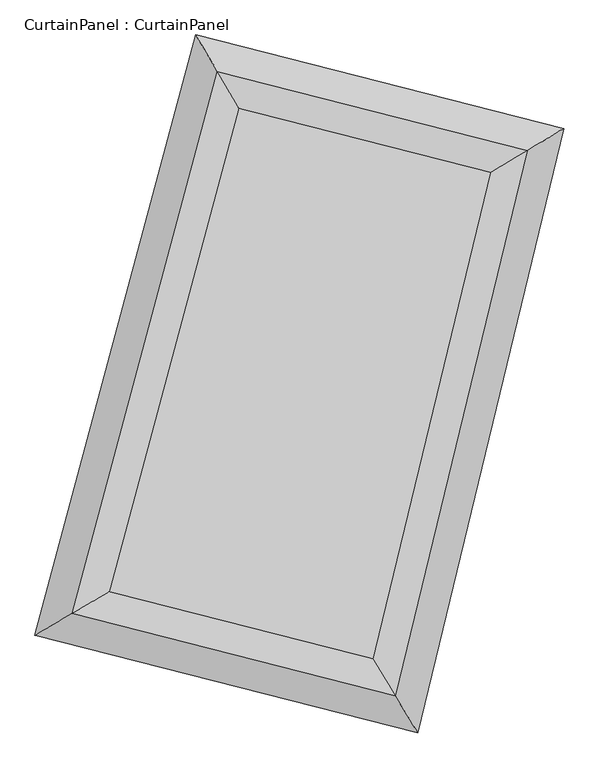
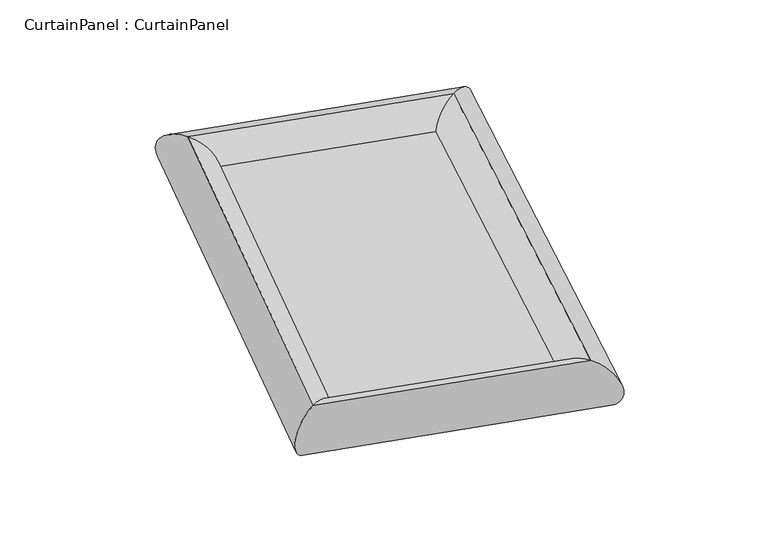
"""IFC4 building model written with IfcOpenShell, lengths in millimetres: plate geometry, CurtainPanel : CurtainPanel."""

from ifc_helpers import new_model, si_unit, frame, origin, origin_with_axes, place, context, project, spatial, polyline, ellipse_curve, outline, extrude, source, transform, mapped, element, save
from ifc_brep_helpers import cylinder_surface, advanced_brep


def curtainpanel_curtainpanel_256ebfa4(model_context):
    return source(origin(), model_context, "Body", "SolidModel", [
        extrude(outline(polyline([(2903.3635278, 2903.3635278), (3953.0348225, 6823.2359965), (6192.395466, 6252.9223469), (5239.2061837, 2308.4781288), (2903.3635278, 2903.3635278)])), origin_with_axes(), (0.0, 0.0, 1.0), 20.0),
        advanced_brep(
        [(2903.3635278, 2903.3635278, -220.0), (2903.3635278, 2903.3635278, 220.0), (5239.2061837, 2308.4781288, 220.0), (5239.2061837, 2308.4781288, -220.0), (6192.395466, 6252.9223469, 220.0), (6192.395466, 6252.9223469, -220.0), (3953.0348225, 6823.2359965, 220.0), (3953.0348225, 6823.2359965, -220.0)],
        [
            (0, 1, ellipse_curve(frame((2903.3635278, 2903.3635278, 0.0), z_axis=(0.5054372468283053, -0.8628633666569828, 0.0), x_axis=(-0.8628633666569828, -0.5054372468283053, 0.0)), 313.0530834, 220.0)),
            (1, 2),
            (2, 3, ellipse_curve(frame((5239.2061837, 2308.4781288, 0.0), z_axis=(-0.856598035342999, -0.5159843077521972, 0.0), x_axis=(-0.5159843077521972, 0.856598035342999, 0.0)), 313.0530834, 220.0)),
            (3, 0),
            (1, 0, ellipse_curve(frame((2903.3635278, 2903.3635278, 0.0), z_axis=(0.5054372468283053, -0.8628633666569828, 0.0), x_axis=(-0.8628633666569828, -0.5054372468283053, 0.0)), 313.0530834, 220.0)),
            (3, 2, ellipse_curve(frame((5239.2061837, 2308.4781288, 0.0), z_axis=(-0.856598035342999, -0.5159843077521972, 0.0), x_axis=(-0.5159843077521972, 0.856598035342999, 0.0)), 313.0530834, 220.0)),
            (2, 4),
            (4, 5, ellipse_curve(frame((6192.395466, 6252.9223469, 0.0), z_axis=(0.5159843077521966, -0.8565980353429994, 0.0), x_axis=(-0.8565980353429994, -0.5159843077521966, 0.0)), 309.2360039, 220.0)),
            (5, 3),
            (5, 4, ellipse_curve(frame((6192.395466, 6252.9223469, 0.0), z_axis=(0.5159843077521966, -0.8565980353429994, 0.0), x_axis=(-0.8565980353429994, -0.5159843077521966, 0.0)), 309.2360039, 220.0)),
            (4, 6),
            (6, 7, ellipse_curve(frame((3953.0348225, 6823.2359965, 0.0), z_axis=(0.862863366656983, 0.5054372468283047, 0.0), x_axis=(0.505437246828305, -0.862863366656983, 0.0)), 309.2360039, 220.0)),
            (7, 5),
            (7, 6, ellipse_curve(frame((3953.0348225, 6823.2359965, 0.0), z_axis=(0.862863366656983, 0.5054372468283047, 0.0), x_axis=(0.505437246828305, -0.862863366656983, 0.0)), 309.2360039, 220.0)),
            (6, 1),
            (0, 7),
        ],
        [
            cylinder_surface(frame((2903.3635278, 2903.3635278, 0.0), z_axis=(-0.9690666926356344, 0.2467989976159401, 0.0), x_axis=(0.2467989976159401, 0.9690666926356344, 0.0)), 220.0),
            cylinder_surface(frame((5239.2061837, 2308.4781288, 0.0), z_axis=(-0.23489249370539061, -0.9720213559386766, 0.0), x_axis=(-0.9720213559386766, 0.23489249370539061, 0.0)), 220.0),
            cylinder_surface(frame((6192.395466, 6252.9223469, 0.0), z_axis=(0.9690666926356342, -0.24679899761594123, 0.0), x_axis=(-0.24679899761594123, -0.9690666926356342, 0.0)), 220.0),
            cylinder_surface(frame((3953.0348225, 6823.2359965, 0.0), z_axis=(0.25866835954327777, 0.9659661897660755, 0.0), x_axis=(0.9659661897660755, -0.25866835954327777, 0.0)), 220.0),
        ],
        [
            (0, [[1, 2, 3, 4]]),
            (0, [[5, -4, 6, -2]]),
            (1, [[-3, 7, 8, 9]]),
            (1, [[-6, -9, 10, -7]]),
            (2, [[-8, 11, 12, 13]]),
            (2, [[-10, -13, 14, -11]]),
            (3, [[-12, 15, -1, 16]]),
            (3, [[-14, -16, -5, -15]]),
        ],
    ),
    ])


if __name__ == "__main__":
    model = new_model("IFC4")
    model_context = context("Model", 3, world=origin())
    ifc_project = project(units=[si_unit("LENGTHUNIT", "METRE", prefix="MILLI")], contexts=[model_context])
    site = spatial("IfcSite", under=ifc_project)
    building = spatial("IfcBuilding", under=site)
    placement = place(None, origin())
    curtainpanel_curtainpanel_shape = curtainpanel_curtainpanel_256ebfa4(model_context)
    element("IfcPlate", 1, ObjectType="CurtainPanel : CurtainPanel", at=placement, inside=building, context=model_context, shape_type="MappedRepresentation", body=[
        mapped(curtainpanel_curtainpanel_shape, transform((0.0, 0.0, 0.0), x_axis=(1.0, 0.0, 0.0), y_axis=(0.0, 1.0, 0.0), z_axis=(0.0, 0.0, 1.0))),
    ])
    save(model, "model.ifc")
